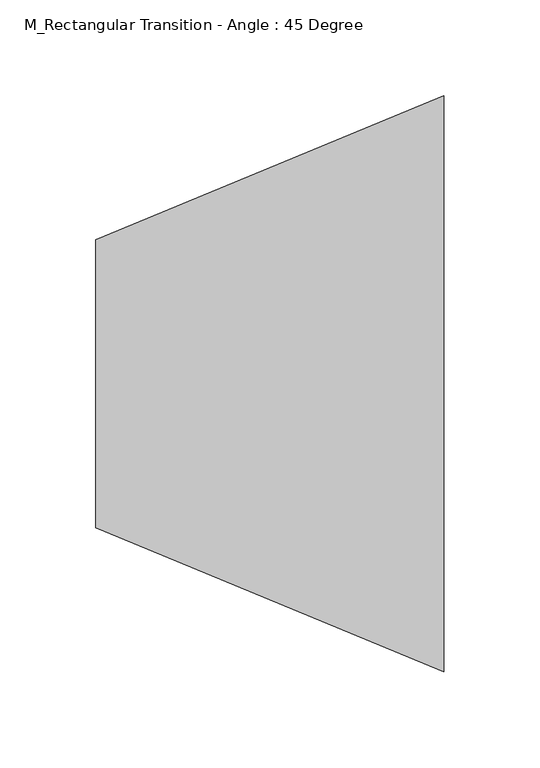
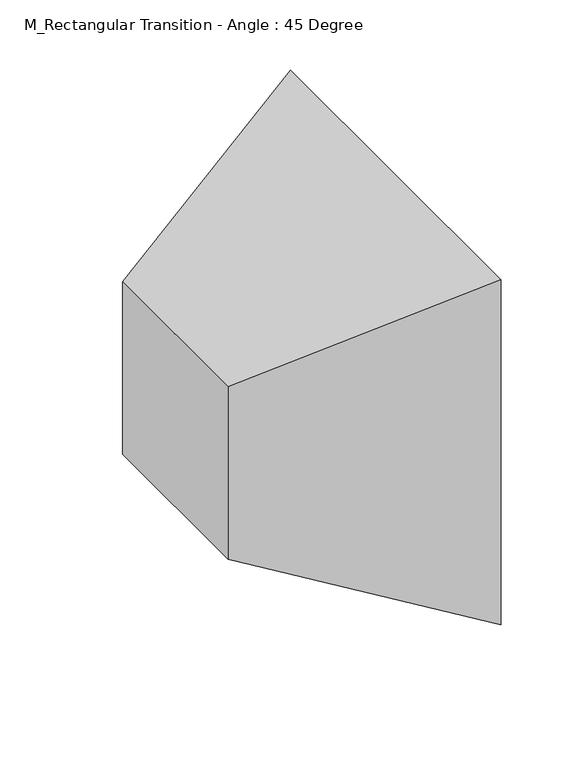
"""IFC4 building model written with IfcOpenShell, lengths in millimetres: duct fitting geometry, M_Rectangular Transition - Angle : 45 Degree."""

from ifc_helpers import new_model, si_unit, origin, place, context, project, spatial, faceted_brep, source, transform, mapped, element, save


def m_rectangular_transition_angle_45_degree_555cbe03(model_context):
    return source(origin(), model_context, "Body", "Brep", [
        faceted_brep([(181.0660172, -150.0, 150.0), (181.0660172, -150.0, -150.0), (181.0660172, 150.0, -150.0), (181.0660172, 150.0, 150.0), (0.0, -75.0, 75.0), (0.0, 75.0, 75.0), (0.0, 75.0, -75.0), (0.0, -75.0, -75.0)], [[[0, 1, 2, 3]], [[4, 5, 6, 7]], [[4, 7, 1, 0]], [[7, 6, 2, 1]], [[6, 5, 3, 2]], [[5, 4, 0, 3]]]),
        faceted_brep([(181.0660172, -150.0, 150.0), (181.0660172, -150.0, -150.0), (181.0660172, 150.0, -150.0), (181.0660172, 150.0, 150.0), (0.0, -75.0, 75.0), (0.0, 75.0, 75.0), (0.0, 75.0, -75.0), (0.0, -75.0, -75.0)], [[[0, 1, 2, 3]], [[4, 5, 6, 7]], [[4, 7, 1, 0]], [[7, 6, 2, 1]], [[6, 5, 3, 2]], [[5, 4, 0, 3]]]),
        faceted_brep([(181.0660172, -150.0, 150.0), (181.0660172, -150.0, -150.0), (181.0660172, 150.0, -150.0), (181.0660172, 150.0, 150.0), (0.0, -75.0, 75.0), (0.0, 75.0, 75.0), (0.0, 75.0, -75.0), (0.0, -75.0, -75.0)], [[[0, 1, 2, 3]], [[4, 5, 6, 7]], [[4, 7, 1, 0]], [[7, 6, 2, 1]], [[6, 5, 3, 2]], [[5, 4, 0, 3]]]),
    ])


if __name__ == "__main__":
    model = new_model("IFC4")
    model_context = context("Model", 3, world=origin())
    ifc_project = project(units=[si_unit("LENGTHUNIT", "METRE", prefix="MILLI")], contexts=[model_context])
    site = spatial("IfcSite", under=ifc_project)
    building = spatial("IfcBuilding", under=site)
    placement = place(None, origin())
    m_rectangular_transition_angle_45_degree_shape = m_rectangular_transition_angle_45_degree_555cbe03(model_context)
    element("IfcDuctFitting", 1, ObjectType="M_Rectangular Transition - Angle : 45 Degree", at=placement, inside=building, context=model_context, shape_type="MappedRepresentation", body=[
        mapped(m_rectangular_transition_angle_45_degree_shape, transform((0.0, 0.0, 0.0), x_axis=(1.0, 0.0, 0.0), y_axis=(0.0, 1.0, 0.0), z_axis=(0.0, 0.0, 1.0))),
    ])
    save(model, "model.ifc")
